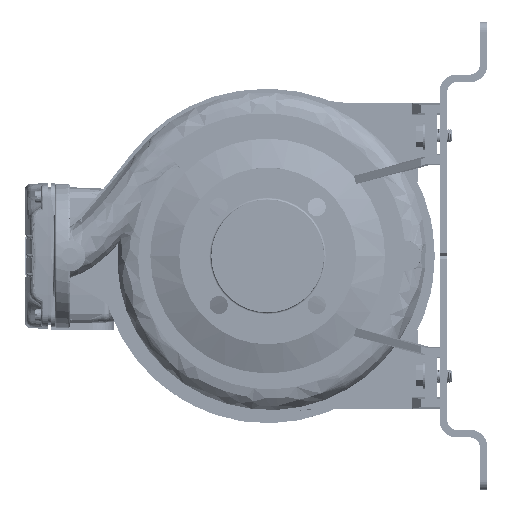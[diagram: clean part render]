
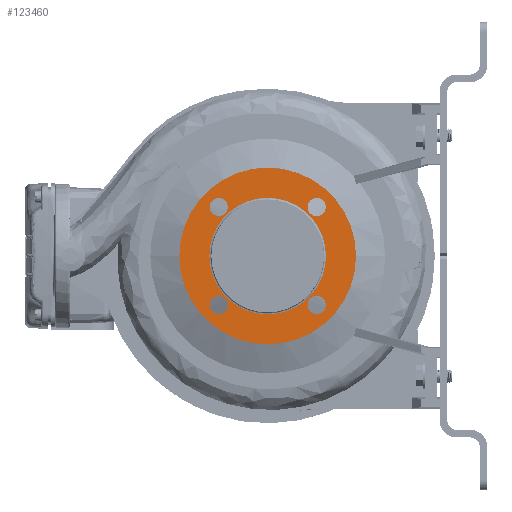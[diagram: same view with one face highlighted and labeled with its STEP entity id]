
A CAD part, left-side view. The second image highlights one B-rep face of the part: STEP entity #123460.
In plain terms, the highlighted planar face has unit normal (-1, 0, 0).
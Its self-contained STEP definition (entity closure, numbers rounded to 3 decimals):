
#2149 = EDGE_LOOP ( 'NONE', ( #270062, #185062 ) ) ;
#8375 = AXIS2_PLACEMENT_3D ( 'NONE', #249363, #103207, #271408 ) ;
#14775 = CARTESIAN_POINT ( 'NONE',  ( -160.682, 236.241, 435.306 ) ) ;
#17766 = VERTEX_POINT ( 'NONE', #14775 ) ;
#18453 = CIRCLE ( 'NONE', #254262, 92.5 ) ;
#20878 = DIRECTION ( 'NONE',  ( 0., 0., -1. ) ) ;
#21689 = CARTESIAN_POINT ( 'NONE',  ( -160.682, 255.241, 435.306 ) ) ;
#22801 = AXIS2_PLACEMENT_3D ( 'NONE', #159637, #255468, #93417 ) ;
#25114 = EDGE_CURVE ( 'NONE', #77478, #205397, #18453, .T. ) ;
#28499 = CARTESIAN_POINT ( 'NONE',  ( -160.682, 245.741, 332.775 ) ) ;
#29385 = FACE_BOUND ( 'NONE', #196617, .T. ) ;
#30312 = DIRECTION ( 'NONE',  ( 1., 0., 0. ) ) ;
#34845 = AXIS2_PLACEMENT_3D ( 'NONE', #139106, #260193, #91843 ) ;
#37739 = CARTESIAN_POINT ( 'NONE',  ( -160.682, 133.71, 435.306 ) ) ;
#40516 = AXIS2_PLACEMENT_3D ( 'NONE', #221098, #175587, #271467 ) ;
#40721 = ORIENTED_EDGE ( 'NONE', *, *, #279588, .F. ) ;
#42491 = CARTESIAN_POINT ( 'NONE',  ( -160.682, 194.476, 384.041 ) ) ;
#48763 = DIRECTION ( 'NONE',  ( -1., 0., 0. ) ) ;
#51711 = CARTESIAN_POINT ( 'NONE',  ( -160.682, 194.476, 384.041 ) ) ;
#52109 = DIRECTION ( 'NONE',  ( -1., 0., 0. ) ) ;
#52539 = AXIS2_PLACEMENT_3D ( 'NONE', #51711, #270291, #169758 ) ;
#56622 = DIRECTION ( 'NONE',  ( 0., 0., 1. ) ) ;
#57348 = DIRECTION ( 'NONE',  ( 0., 1., 0. ) ) ;
#59883 = EDGE_CURVE ( 'NONE', #245953, #199023, #92710, .T. ) ;
#61745 = CARTESIAN_POINT ( 'NONE',  ( -160.682, 143.21, 332.775 ) ) ;
#64036 = EDGE_LOOP ( 'NONE', ( #40721, #270118 ) ) ;
#64202 = EDGE_CURVE ( 'NONE', #129252, #109545, #96462, .T. ) ;
#67073 = CARTESIAN_POINT ( 'NONE',  ( -160.682, 255.241, 332.775 ) ) ;
#69670 = CIRCLE ( 'NONE', #110553, 9.5 ) ;
#74043 = AXIS2_PLACEMENT_3D ( 'NONE', #200091, #30312, #102568 ) ;
#74974 = EDGE_CURVE ( 'NONE', #306446, #238340, #215483, .T. ) ;
#75662 = CIRCLE ( 'NONE', #40516, 9.5 ) ;
#77478 = VERTEX_POINT ( 'NONE', #203610 ) ;
#80360 = CARTESIAN_POINT ( 'NONE',  ( -160.682, 133.71, 332.775 ) ) ;
#82988 = VERTEX_POINT ( 'NONE', #67073 ) ;
#82998 = CIRCLE ( 'NONE', #22801, 9.5 ) ;
#85001 = CARTESIAN_POINT ( 'NONE',  ( -160.682, 236.241, 332.775 ) ) ;
#88034 = CIRCLE ( 'NONE', #128309, 9.5 ) ;
#88904 = ORIENTED_EDGE ( 'NONE', *, *, #130401, .F. ) ;
#91843 = DIRECTION ( 'NONE',  ( 0., 0., -1. ) ) ;
#92710 = CIRCLE ( 'NONE', #263566, 9.5 ) ;
#93417 = DIRECTION ( 'NONE',  ( 0., -1., 0. ) ) ;
#96462 = CIRCLE ( 'NONE', #161832, 61. ) ;
#102568 = DIRECTION ( 'NONE',  ( 0., 1., 0. ) ) ;
#103152 = ORIENTED_EDGE ( 'NONE', *, *, #215281, .F. ) ;
#103207 = DIRECTION ( 'NONE',  ( -1., 0., 0. ) ) ;
#104679 = CARTESIAN_POINT ( 'NONE',  ( -160.682, 194.476, 384.041 ) ) ;
#105870 = VERTEX_POINT ( 'NONE', #85001 ) ;
#109430 = ORIENTED_EDGE ( 'NONE', *, *, #198364, .T. ) ;
#109545 = VERTEX_POINT ( 'NONE', #282257 ) ;
#110553 = AXIS2_PLACEMENT_3D ( 'NONE', #119510, #48763, #117943 ) ;
#117943 = DIRECTION ( 'NONE',  ( 0., 1., 0. ) ) ;
#119510 = CARTESIAN_POINT ( 'NONE',  ( -160.682, 143.21, 332.775 ) ) ;
#123460 = ADVANCED_FACE ( 'NONE', ( #175540, #29385, #126726, #297956, #173959, #125221 ), #222584, .T. ) ;
#125221 = FACE_OUTER_BOUND ( 'NONE', #196931, .T. ) ;
#126726 = FACE_BOUND ( 'NONE', #169440, .T. ) ;
#128309 = AXIS2_PLACEMENT_3D ( 'NONE', #286443, #239321, #20878 ) ;
#129252 = VERTEX_POINT ( 'NONE', #143483 ) ;
#130401 = EDGE_CURVE ( 'NONE', #205397, #77478, #264899, .T. ) ;
#131736 = AXIS2_PLACEMENT_3D ( 'NONE', #28499, #179286, #56622 ) ;
#135126 = EDGE_CURVE ( 'NONE', #17766, #204999, #153285, .T. ) ;
#137659 = CARTESIAN_POINT ( 'NONE',  ( -160.682, 101.976, 384.041 ) ) ;
#138368 = DIRECTION ( 'NONE',  ( 1., 0., 0. ) ) ;
#139106 = CARTESIAN_POINT ( 'NONE',  ( -160.682, 143.21, 435.306 ) ) ;
#143483 = CARTESIAN_POINT ( 'NONE',  ( -160.682, 255.476, 384.041 ) ) ;
#153285 = CIRCLE ( 'NONE', #273767, 9.5 ) ;
#157222 = EDGE_CURVE ( 'NONE', #82988, #105870, #75662, .T. ) ;
#157772 = DIRECTION ( 'NONE',  ( -1., 0., 0. ) ) ;
#159637 = CARTESIAN_POINT ( 'NONE',  ( -160.682, 245.741, 435.306 ) ) ;
#160898 = DIRECTION ( 'NONE',  ( 0., 1., 0. ) ) ;
#161832 = AXIS2_PLACEMENT_3D ( 'NONE', #104679, #173848, #57348 ) ;
#168597 = DIRECTION ( 'NONE',  ( 0., -1., 0. ) ) ;
#169440 = EDGE_LOOP ( 'NONE', ( #103152, #207868 ) ) ;
#169758 = DIRECTION ( 'NONE',  ( 0., 1., 0. ) ) ;
#173848 = DIRECTION ( 'NONE',  ( 1., 0., 0. ) ) ;
#173959 = FACE_BOUND ( 'NONE', #248318, .T. ) ;
#175540 = FACE_BOUND ( 'NONE', #64036, .T. ) ;
#175587 = DIRECTION ( 'NONE',  ( -1., 0., 0. ) ) ;
#179286 = DIRECTION ( 'NONE',  ( -1., 0., 0. ) ) ;
#185062 = ORIENTED_EDGE ( 'NONE', *, *, #306903, .F. ) ;
#192026 = ORIENTED_EDGE ( 'NONE', *, *, #59883, .F. ) ;
#196617 = EDGE_LOOP ( 'NONE', ( #310191, #192026 ) ) ;
#196931 = EDGE_LOOP ( 'NONE', ( #256818, #88904 ) ) ;
#198364 = EDGE_CURVE ( 'NONE', #109545, #129252, #293541, .T. ) ;
#199023 = VERTEX_POINT ( 'NONE', #80360 ) ;
#200091 = CARTESIAN_POINT ( 'NONE',  ( -160.682, 194.476, 384.041 ) ) ;
#203610 = CARTESIAN_POINT ( 'NONE',  ( -160.682, 286.976, 384.041 ) ) ;
#204999 = VERTEX_POINT ( 'NONE', #21689 ) ;
#205397 = VERTEX_POINT ( 'NONE', #137659 ) ;
#207868 = ORIENTED_EDGE ( 'NONE', *, *, #74974, .F. ) ;
#210640 = EDGE_CURVE ( 'NONE', #199023, #245953, #69670, .T. ) ;
#215281 = EDGE_CURVE ( 'NONE', #238340, #306446, #88034, .T. ) ;
#215483 = CIRCLE ( 'NONE', #34845, 9.5 ) ;
#221098 = CARTESIAN_POINT ( 'NONE',  ( -160.682, 245.741, 332.775 ) ) ;
#222584 = PLANE ( 'NONE',  #8375 ) ;
#229988 = CARTESIAN_POINT ( 'NONE',  ( -160.682, 152.71, 332.775 ) ) ;
#235907 = DIRECTION ( 'NONE',  ( 0., 1., 0. ) ) ;
#238340 = VERTEX_POINT ( 'NONE', #37739 ) ;
#239321 = DIRECTION ( 'NONE',  ( -1., 0., 0. ) ) ;
#239363 = CARTESIAN_POINT ( 'NONE',  ( -160.682, 245.741, 435.306 ) ) ;
#245953 = VERTEX_POINT ( 'NONE', #229988 ) ;
#248318 = EDGE_LOOP ( 'NONE', ( #279073, #109430 ) ) ;
#249363 = CARTESIAN_POINT ( 'NONE',  ( -160.682, 255.476, 384.041 ) ) ;
#254262 = AXIS2_PLACEMENT_3D ( 'NONE', #42491, #138368, #235907 ) ;
#255468 = DIRECTION ( 'NONE',  ( -1., 0., 0. ) ) ;
#256818 = ORIENTED_EDGE ( 'NONE', *, *, #25114, .F. ) ;
#260193 = DIRECTION ( 'NONE',  ( -1., 0., 0. ) ) ;
#263566 = AXIS2_PLACEMENT_3D ( 'NONE', #61745, #157772, #160898 ) ;
#264899 = CIRCLE ( 'NONE', #74043, 92.5 ) ;
#270062 = ORIENTED_EDGE ( 'NONE', *, *, #135126, .F. ) ;
#270118 = ORIENTED_EDGE ( 'NONE', *, *, #157222, .F. ) ;
#270291 = DIRECTION ( 'NONE',  ( 1., 0., 0. ) ) ;
#271408 = DIRECTION ( 'NONE',  ( 0., -1., 0. ) ) ;
#271467 = DIRECTION ( 'NONE',  ( 0., 0., 1. ) ) ;
#273767 = AXIS2_PLACEMENT_3D ( 'NONE', #239363, #52109, #168597 ) ;
#277397 = CIRCLE ( 'NONE', #131736, 9.5 ) ;
#279073 = ORIENTED_EDGE ( 'NONE', *, *, #64202, .T. ) ;
#279588 = EDGE_CURVE ( 'NONE', #105870, #82988, #277397, .T. ) ;
#282257 = CARTESIAN_POINT ( 'NONE',  ( -160.682, 133.476, 384.041 ) ) ;
#286443 = CARTESIAN_POINT ( 'NONE',  ( -160.682, 143.21, 435.306 ) ) ;
#293541 = CIRCLE ( 'NONE', #52539, 61. ) ;
#296740 = CARTESIAN_POINT ( 'NONE',  ( -160.682, 152.71, 435.306 ) ) ;
#297956 = FACE_BOUND ( 'NONE', #2149, .T. ) ;
#306446 = VERTEX_POINT ( 'NONE', #296740 ) ;
#306903 = EDGE_CURVE ( 'NONE', #204999, #17766, #82998, .T. ) ;
#310191 = ORIENTED_EDGE ( 'NONE', *, *, #210640, .F. ) ;
